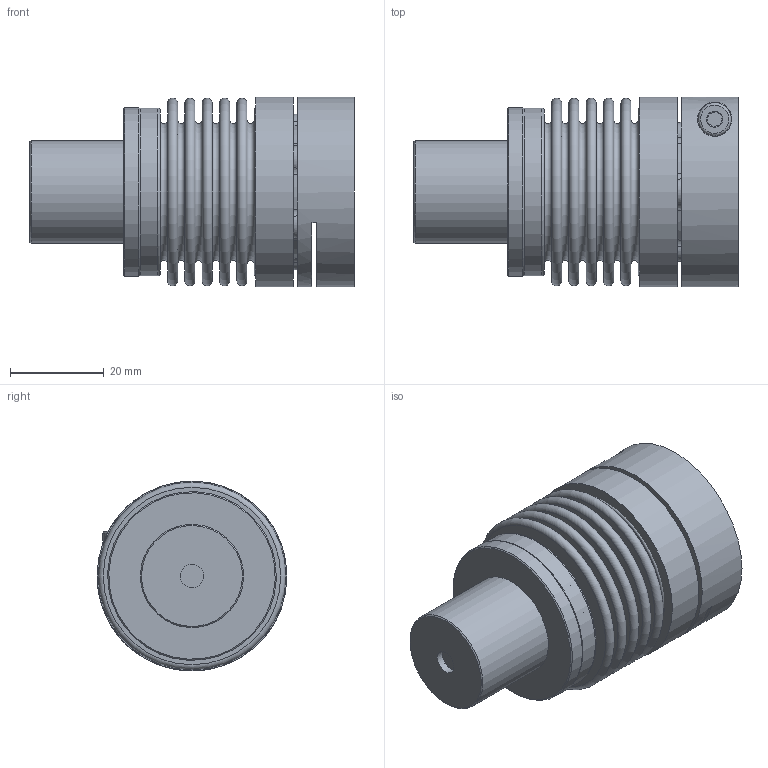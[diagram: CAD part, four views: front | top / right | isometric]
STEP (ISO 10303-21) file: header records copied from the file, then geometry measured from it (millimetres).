
FILE_DESCRIPTION( ( 'KBE1/14 - N7H8 - N14H7 - 98 Sh' ), '1' );
FILE_NAME( 'K:/Konstruktion/Fertigungszeichnungen/Metallbalgkupplung/KB3P/100/KB3P-100-50.stp', '14.12.2015', ( 'KBK-Antriebstechnik' ), ( 'KBK-Antriebstechnik' ), 'PSStep 16.0.42', 'Solid Edge St6', ' ' );
FILE_SCHEMA( ( 'AUTOMOTIVE_DESIGN { 1 0 10303 214 1 1 1 1 }' ) );
Length unit declared in the file: millimetre
Products named in the file (7): Assem1; Stecknabe KB2P-100; Balgaufnahme KB2P-100 für Step; BK100_Standard_2; SN100; ISO EN DIN 4762 M4x12; ISO EN DIN 4762 M6x25
Assembly tree (6 placements, depth 2):
  Assem1
    Stecknabe KB2P-100
    Balgaufnahme KB2P-100 für Step
    BK100_Standard_2
    SN100
    ISO EN DIN 4762 M4x12
    ISO EN DIN 4762 M6x25
Bounding box: 69.15 x 40.5 x 40.5 mm (x, y, z)
Volume: 42151.8 mm3; surface area: 33038.1 mm2
Topology: 6 solids, 6 shells, 186 faces, 386 edges, 247 vertices
Faces by surface type: plane 66, cone 66, torus 30, cylinder 24
Full cylindrical faces by diameter (mm): 3.242 x1, 3.5 x1, 4 x2, 4.2 x1, 5 x2, 6 x3, 7 x1, 7.3 x1, 10 x1, 22 x1, 35.2 x3, 35.8 x2, 36 x1, 40.5 x2
Entity records: 6469 total; most frequent: CARTESIAN_POINT 961, DIRECTION 907, ORIENTED_EDGE 638, AXIS2_PLACEMENT_3D 410, EDGE_CURVE 319, EDGE_LOOP 291, VERTEX_POINT 248, FACE_OUTER_BOUND 238
